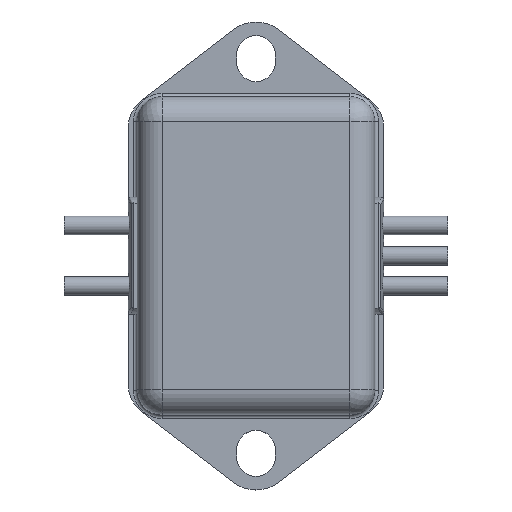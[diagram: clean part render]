
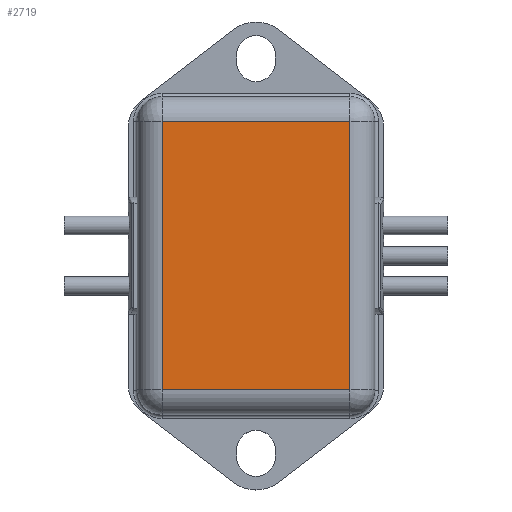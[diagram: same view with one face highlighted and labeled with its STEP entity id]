
A CAD part, top view. The second image highlights one B-rep face of the part: STEP entity #2719.
In plain terms, the highlighted planar face has unit normal (0, 0, 1).
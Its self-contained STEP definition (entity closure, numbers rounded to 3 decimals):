
#2507=CARTESIAN_POINT('',(-12.85,18.35,29.3));
#2508=VERTEX_POINT('',#2507);
#2517=CARTESIAN_POINT('',(-12.85,-18.35,29.3));
#2518=VERTEX_POINT('',#2517);
#2526=CARTESIAN_POINT('',(-12.85,-18.35,29.3));
#2527=DIRECTION('',(0.0,1.0,0.0));
#2528=VECTOR('',#2527,36.7);
#2529=LINE('',#2526,#2528);
#2530=EDGE_CURVE('',#2518,#2508,#2529,.T.);
#2557=CARTESIAN_POINT('',(12.85,-18.35,29.3));
#2558=VERTEX_POINT('',#2557);
#2566=CARTESIAN_POINT('',(12.85,-18.35,29.3));
#2567=DIRECTION('',(-1.0,0.0,0.0));
#2568=VECTOR('',#2567,25.7);
#2569=LINE('',#2566,#2568);
#2570=EDGE_CURVE('',#2558,#2518,#2569,.T.);
#2605=CARTESIAN_POINT('',(12.85,18.35,29.3));
#2606=VERTEX_POINT('',#2605);
#2614=CARTESIAN_POINT('',(12.85,18.35,29.3));
#2615=DIRECTION('',(0.0,-1.0,0.0));
#2616=VECTOR('',#2615,36.7);
#2617=LINE('',#2614,#2616);
#2618=EDGE_CURVE('',#2606,#2558,#2617,.T.);
#2660=CARTESIAN_POINT('',(-12.85,18.35,29.3));
#2661=DIRECTION('',(1.0,0.0,0.0));
#2662=VECTOR('',#2661,25.7);
#2663=LINE('',#2660,#2662);
#2664=EDGE_CURVE('',#2508,#2606,#2663,.T.);
#2708=CARTESIAN_POINT('',(0.,0.,29.3));
#2709=DIRECTION('',(0.0,0.0,1.0));
#2710=DIRECTION('',(1.0,0.0,0.0));
#2711=AXIS2_PLACEMENT_3D('',#2708,#2709,#2710);
#2712=PLANE('',#2711);
#2713=ORIENTED_EDGE('',*,*,#2530,.F.);
#2714=ORIENTED_EDGE('',*,*,#2570,.F.);
#2715=ORIENTED_EDGE('',*,*,#2618,.F.);
#2716=ORIENTED_EDGE('',*,*,#2664,.F.);
#2717=EDGE_LOOP('',(#2713,#2714,#2715,#2716));
#2718=FACE_OUTER_BOUND('',#2717,.T.);
#2719=ADVANCED_FACE('',(#2718),#2712,.T.);
